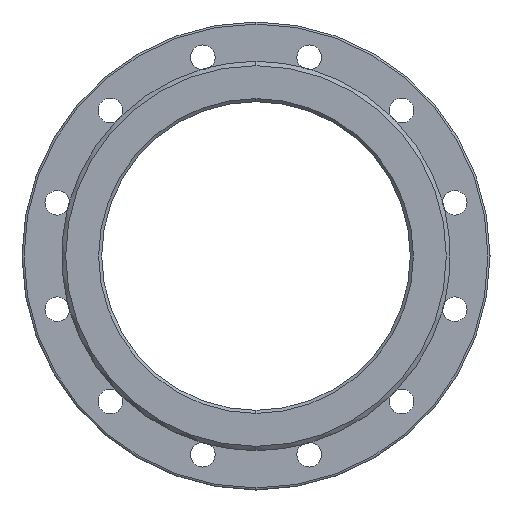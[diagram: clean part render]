
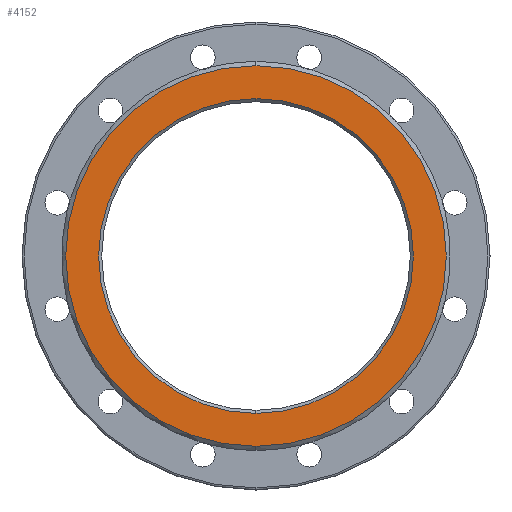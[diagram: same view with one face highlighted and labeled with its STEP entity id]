
A CAD part, left-side view. The second image highlights one B-rep face of the part: STEP entity #4152.
In plain terms, the highlighted planar face has unit normal (-1, 0, 0).
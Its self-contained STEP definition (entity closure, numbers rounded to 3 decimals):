
#104 = CIRCLE ( 'NONE', #5827, 153. ) ;
#144 = VERTEX_POINT ( 'NONE', #2254 ) ;
#314 = FACE_BOUND ( 'NONE', #4009, .T. ) ;
#688 = CIRCLE ( 'NONE', #3921, 185. ) ;
#821 = EDGE_CURVE ( 'Defeatured_0_4+Defeatured_0_2+Defeatured_0_2+Defeatured_0_2', #3663, #3021, #5748, .T. ) ;
#909 = DIRECTION ( 'NONE',  ( 0., 0., -1. ) ) ;
#914 = AXIS2_PLACEMENT_3D ( 'NONE', #2150, #4415, #909 ) ;
#1068 = CARTESIAN_POINT ( 'NONE',  ( -350., 0., -185. ) ) ;
#1131 = ORIENTED_EDGE ( 'NONE', *, *, #821, .T. ) ;
#1192 = FACE_OUTER_BOUND ( 'NONE', #3201, .T. ) ;
#1715 = ORIENTED_EDGE ( 'NONE', *, *, #3509, .T. ) ;
#2150 = CARTESIAN_POINT ( 'NONE',  ( -350., 0., 0. ) ) ;
#2254 = CARTESIAN_POINT ( 'NONE',  ( -350., 0., 153. ) ) ;
#2370 = CARTESIAN_POINT ( 'NONE',  ( -350., 0., -153. ) ) ;
#2848 = ORIENTED_EDGE ( 'NONE', *, *, #5892, .T. ) ;
#2991 = VERTEX_POINT ( 'NONE', #2370 ) ;
#3021 = VERTEX_POINT ( 'NONE', #1068 ) ;
#3201 = EDGE_LOOP ( 'NONE', ( #1715, #1131 ) ) ;
#3247 = EDGE_CURVE ( 'Defeatured_0_4+Defeatured_0_37+Defeatured_0_37+Defeatured_0_37', #2991, #144, #104, .T. ) ;
#3379 = AXIS2_PLACEMENT_3D ( 'NONE', #4283, #4397, #3483 ) ;
#3475 = CIRCLE ( 'NONE', #914, 153. ) ;
#3483 = DIRECTION ( 'NONE',  ( 0., 0., 1. ) ) ;
#3509 = EDGE_CURVE ( 'Defeatured_0_4+Defeatured_0_2+Defeatured_0_2+Defeatured_0_2', #3021, #3663, #688, .T. ) ;
#3663 = VERTEX_POINT ( 'NONE', #3788 ) ;
#3675 = DIRECTION ( 'NONE',  ( 0., 0., -1. ) ) ;
#3736 = AXIS2_PLACEMENT_3D ( 'NONE', #5383, #3979, #4817 ) ;
#3788 = CARTESIAN_POINT ( 'NONE',  ( -350., 0., 185. ) ) ;
#3921 = AXIS2_PLACEMENT_3D ( 'NONE', #5321, #3951, #4482 ) ;
#3951 = DIRECTION ( 'NONE',  ( -1., 0., 0. ) ) ;
#3979 = DIRECTION ( 'NONE',  ( 1., 0., 0. ) ) ;
#4009 = EDGE_LOOP ( 'NONE', ( #2848, #5344 ) ) ;
#4152 = ADVANCED_FACE ( 'Defeatured_0_4', ( #314, #1192 ), #4367, .F. ) ;
#4203 = DIRECTION ( 'NONE',  ( 1., 0., 0. ) ) ;
#4283 = CARTESIAN_POINT ( 'NONE',  ( -350., 0., 0. ) ) ;
#4367 = PLANE ( 'NONE',  #3736 ) ;
#4397 = DIRECTION ( 'NONE',  ( -1., 0., 0. ) ) ;
#4415 = DIRECTION ( 'NONE',  ( 1., 0., 0. ) ) ;
#4482 = DIRECTION ( 'NONE',  ( 0., 0., 1. ) ) ;
#4817 = DIRECTION ( 'NONE',  ( 0., 0., -1. ) ) ;
#5067 = CARTESIAN_POINT ( 'NONE',  ( -350., 0., 0. ) ) ;
#5321 = CARTESIAN_POINT ( 'NONE',  ( -350., 0., 0. ) ) ;
#5344 = ORIENTED_EDGE ( 'NONE', *, *, #3247, .T. ) ;
#5383 = CARTESIAN_POINT ( 'NONE',  ( -350., 150., 0. ) ) ;
#5748 = CIRCLE ( 'NONE', #3379, 185. ) ;
#5827 = AXIS2_PLACEMENT_3D ( 'NONE', #5067, #4203, #3675 ) ;
#5892 = EDGE_CURVE ( 'Defeatured_0_4+Defeatured_0_37+Defeatured_0_37+Defeatured_0_37', #144, #2991, #3475, .T. ) ;
